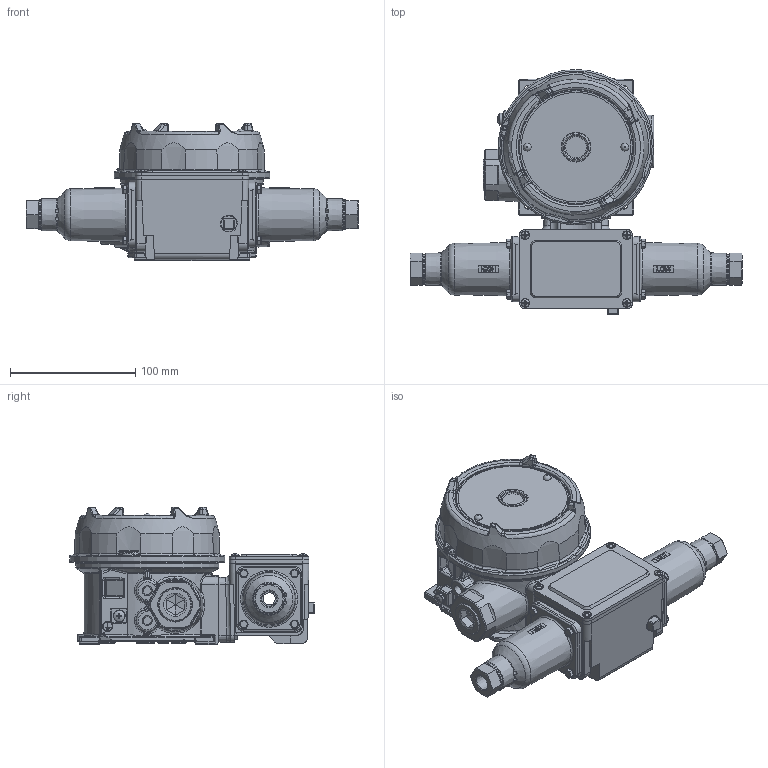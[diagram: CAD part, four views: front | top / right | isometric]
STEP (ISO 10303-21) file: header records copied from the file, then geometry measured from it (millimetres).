
FILE_DESCRIPTION (( 'STEP AP214' ), '1' );
FILE_NAME ('J120K-367.STEP', '2025-03-19T19:00:10', ( '' ), ( '' ), 'SwSTEP 2.0', 'SolidWorks 2023', '' );
FILE_SCHEMA (( 'AUTOMOTIVE_DESIGN' ));
Length unit declared in the file: inch
Products named in the file (1): J120K-367
Bounding box: 264.8 x 195.36 x 109.35 mm (x, y, z)
Surface area: 141890.5 mm2 (no closed solid volume)
Topology: 0 solids, 57 shells, 1367 faces, 3823 edges, 2420 vertices
Faces by surface type: plane 437, cylinder 301, bspline 239, cone 186, torus 169, sphere 35
Full cylindrical faces by diameter (mm): 3.175 x4, 3.22 x1, 3.454 x2, 5.556 x10, 6.858 x4, 7.366 x1, 7.874 x1, 9.5 x1, 23.812 x1, 23.876 x2, 87.312 x1, 114.046 x1, 123.952 x1
Entity records: 54799 total; most frequent: CARTESIAN_POINT 23811, ORIENTED_EDGE 6342, DIRECTION 5915, EDGE_CURVE 3641, VERTEX_POINT 2387, AXIS2_PLACEMENT_3D 2326, EDGE_LOOP 1575, FACE_OUTER_BOUND 1438
